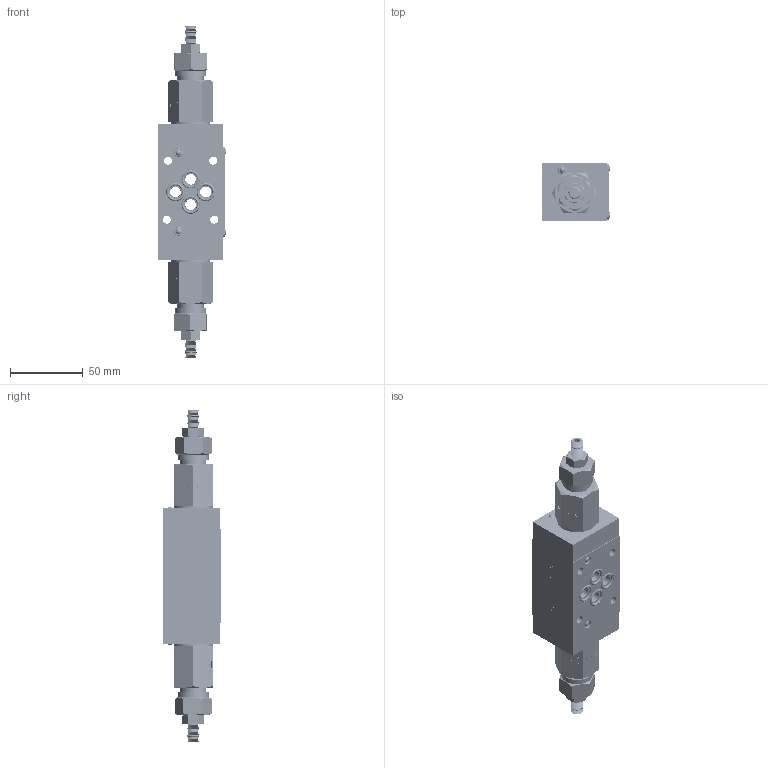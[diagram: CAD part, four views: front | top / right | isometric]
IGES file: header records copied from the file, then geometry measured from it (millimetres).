
Start section: SolidWorks IGES file using analytic representation for surfaces
Global section: file name: C:\Users\user\Desktop\FT379-3-AB-03.IGS; native system: SolidWorks 2014; preprocessor: SolidWorks 2014; author: user; date: 140618.141816; units: millimetre
Bounding box: 46.96 x 40.38 x 227.81 mm (x, y, z)
Surface area: 80235.9 mm2 (no closed solid volume)
Topology: 0 solids, 0 shells, 3323 faces, 37082 edges, 37054 vertices
Faces by surface type: bspline 2081, revolution 1242
